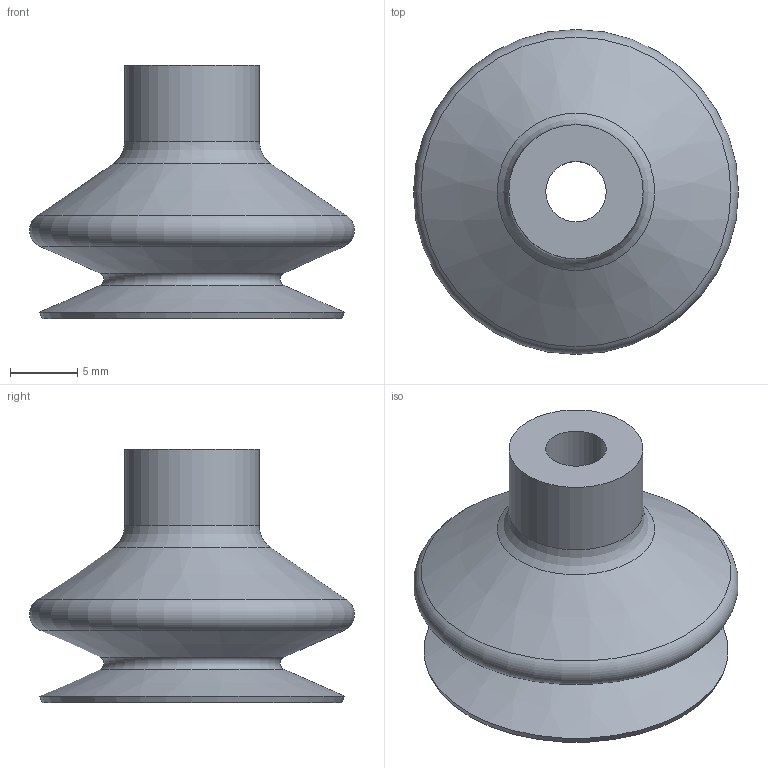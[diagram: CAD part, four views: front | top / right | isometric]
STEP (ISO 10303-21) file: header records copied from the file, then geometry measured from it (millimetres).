
FILE_DESCRIPTION(('STEP AP214'),'1');
FILE_NAME('CA.08.31.005.stp','2019-04-17T13:25:39',(' '),(' '),'Spatial InterOp 3D',' ',' ');
FILE_SCHEMA(('AUTOMOTIVE_DESIGN { 1 0 10303 214 1 1 1 1 }'));
Length unit declared in the file: millimetre
Products named in the file (1): CA.08.31.005
Bounding box: 24.2 x 24.2 x 18.9 mm (x, y, z)
Volume: 3585.4 mm3; surface area: 2205 mm2
Topology: 1 solids, 1 shells, 16 faces, 29 edges, 17 vertices
Faces by surface type: cone 5, cylinder 4, plane 4, torus 3
Full cylindrical faces by diameter (mm): 4.5 x2, 5 x1, 10 x1
Entity records: 472 total; most frequent: DIRECTION 66, CARTESIAN_POINT 49, AXIS2_PLACEMENT_3D 33, EDGE_LOOP 32, ORIENTED_EDGE 32, FACE_OUTER_BOUND 23, STYLED_ITEM 16, PRESENTATION_STYLE_ASSIGNMENT 16
